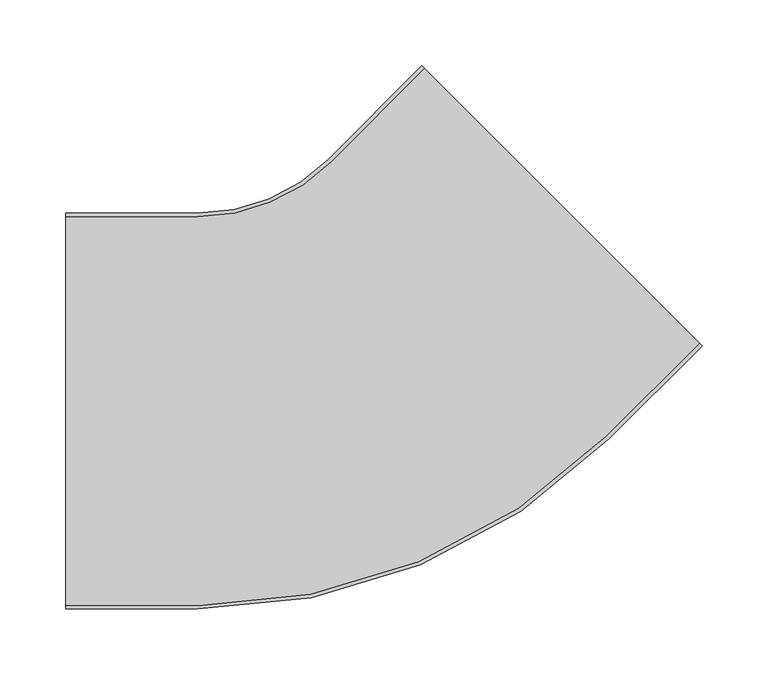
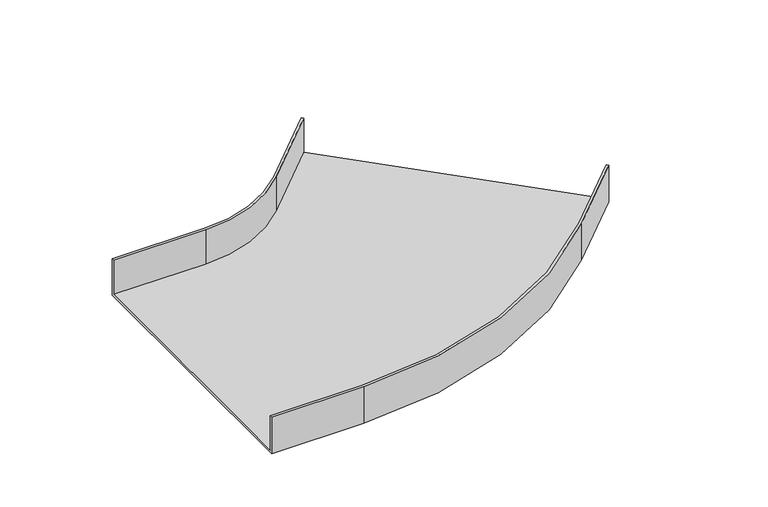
"""IFC4 building model written with IfcOpenShell, lengths in millimetres: cable carrier fitting geometry, BAKS_Horizontal bend radius : KKPJ/KKMPJ_H42."""

from ifc_helpers import new_model, si_unit, frame, origin, place, context, project, spatial, polyline, circle_curve, source, transform, mapped, element, save
from ifc_brep_helpers import plane_surface, cylinder_surface, revolved_surface, advanced_brep


def cable_carrier_fitting_55953e98(model_context):
    return source(origin(), model_context, "Body", "AdvancedBrep", [
        advanced_brep(
        [(-220.1219331, -150.0, -21.0), (-220.1219331, -150.0, 21.0), (-220.1219331, -147.46, 21.0), (-220.1219331, -147.46, -18.46), (-220.1219331, 147.46, -18.46), (-220.1219331, 147.46, 21.0), (-220.1219331, 150.0, 21.0), (-220.1219331, 150.0, -21.0), (261.7157288, 49.5836944, -21.0), (49.5836944, 261.7157288, -21.0), (49.5836944, 261.7157288, 21.0), (51.3797456, 259.9196775, 21.0), (51.3797456, 259.9196775, -18.46), (259.9196775, 51.3797456, -18.46), (259.9196775, 51.3797456, 21.0), (261.7157288, 49.5836944, 21.0), (-120.1219331, -150.0, -21.0), (-120.1219331, -150.0, 21.0), (191.0050506, -21.1269837, 21.0), (189.2089994, -19.3309325, 21.0), (-120.1219331, -147.46, 21.0), (-120.1219331, -147.46, -18.46), (189.2089994, -19.3309325, -18.46), (-19.3309325, 189.2089994, -18.46), (-120.1219331, 147.46, -18.46), (-120.1219331, 147.46, 21.0), (-19.3309325, 189.2089994, 21.0), (-21.1269837, 191.0050506, 21.0), (-120.1219331, 150.0, 21.0), (-120.1219331, 150.0, -21.0), (-21.1269837, 191.0050506, -21.0), (191.0050506, -21.1269837, -21.0)],
        [
            (0, 1),
            (1, 2),
            (2, 3),
            (3, 4),
            (4, 5),
            (5, 6),
            (6, 7),
            (7, 0),
            (8, 9),
            (9, 10),
            (10, 11),
            (11, 12),
            (12, 13),
            (13, 14),
            (14, 15),
            (15, 8),
            (0, 16),
            (16, 17),
            (17, 1),
            (17, 18, circle_curve(frame((-120.1219331, 290.0, 21.0), z_axis=(0.0, 0.0, 1.0), x_axis=(0.0, -1.0, 0.0)), 440.0)),
            (18, 15),
            (14, 19),
            (19, 20, circle_curve(frame((-120.1219331, 290.0, 21.0), z_axis=(0.0, 0.0, -1.0), x_axis=(0.0, -1.0, 0.0)), 437.46)),
            (20, 2),
            (20, 21),
            (21, 3),
            (21, 22, circle_curve(frame((-120.1219331, 290.0, -18.46), z_axis=(0.0, 0.0, 1.0), x_axis=(0.0, -1.0, 0.0)), 437.46)),
            (22, 13),
            (12, 23),
            (23, 24, circle_curve(frame((-120.1219331, 290.0, -18.46), z_axis=(0.0, 0.0, -1.0), x_axis=(0.0, -1.0, 0.0)), 142.54)),
            (24, 4),
            (24, 25),
            (25, 5),
            (25, 26, circle_curve(frame((-120.1219331, 290.0, 21.0), z_axis=(0.0, 0.0, 1.0), x_axis=(0.0, -1.0, 0.0)), 142.54)),
            (26, 11),
            (10, 27),
            (27, 28, circle_curve(frame((-120.1219331, 290.0, 21.0), z_axis=(0.0, 0.0, -1.0), x_axis=(0.0, -1.0, 0.0)), 140.0)),
            (28, 6),
            (28, 29),
            (29, 7),
            (29, 30, circle_curve(frame((-120.1219331, 290.0, -21.0), z_axis=(0.0, 0.0, 1.0), x_axis=(0.0, -1.0, 0.0)), 140.0)),
            (30, 9),
            (8, 31),
            (31, 16, circle_curve(frame((-120.1219331, 290.0, -21.0), z_axis=(0.0, 0.0, -1.0), x_axis=(0.0, -1.0, 0.0)), 440.0)),
            (31, 18),
            (19, 22),
            (23, 26),
            (27, 30),
        ],
        [
            plane_surface(frame((-220.1219331, 0.0, 0.0), z_axis=(-1.0, 0.0, 0.0), x_axis=(0.0, 0.0, 1.0))),
            plane_surface(frame((155.6497116, 155.6497116, 0.0), z_axis=(0.7071067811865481, 0.7071067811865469, 0.0), x_axis=(0.0, 0.0, 1.0))),
            plane_surface(frame((-220.1219331, -150.0, -21.0), z_axis=(0.0, -1.0, 0.0), x_axis=(1.0, 0.0, 0.0))),
            plane_surface(frame((-220.1219331, -150.0, 21.0), z_axis=(0.0, 0.0, 1.0), x_axis=(1.0, 0.0, 0.0))),
            plane_surface(frame((-220.1219331, -147.46, 21.0), z_axis=(0.0, 1.0, 0.0), x_axis=(1.0, 0.0, 0.0))),
            plane_surface(frame((-220.1219331, -147.46, -18.46), z_axis=(0.0, 0.0, 1.0), x_axis=(1.0, 0.0, 0.0))),
            plane_surface(frame((-220.1219331, 147.46, -18.46), z_axis=(0.0, -1.0, 0.0), x_axis=(1.0, 0.0, 0.0))),
            plane_surface(frame((-220.1219331, 147.46, 21.0), z_axis=(0.0, 0.0, 1.0), x_axis=(1.0, 0.0, 0.0))),
            plane_surface(frame((-220.1219331, 150.0, 21.0), z_axis=(0.0, 1.0, 0.0), x_axis=(1.0, 0.0, 0.0))),
            plane_surface(frame((-220.1219331, 150.0, -21.0), z_axis=(0.0, 0.0, -1.0), x_axis=(1.0, 0.0, 0.0))),
            cylinder_surface(frame((-120.1219331, 290.0, 0.0), z_axis=(0.0, 0.0, 1.0), x_axis=(0.0, -1.0, 0.0)), 440.0),
            revolved_surface(polyline([(-120.1219331, -147.45999999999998, 21.0), (-120.1219331, -147.45999999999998, -18.46)]), (-120.1219331, 290.0, 0.0), (0.0, 0.0, 1.0)),
            cylinder_surface(frame((-120.1219331, 290.0, 0.0), z_axis=(0.0, 0.0, 1.0), x_axis=(0.0, -1.0, 0.0)), 142.54),
            revolved_surface(polyline([(-120.1219331, 150.0, 21.0), (-120.1219331, 150.0, -21.0)]), (-120.1219331, 290.0, 0.0), (0.0, 0.0, 1.0)),
            plane_surface(frame((191.0050506, -21.1269837, -21.0), z_axis=(0.7071067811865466, -0.7071067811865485, 0.0), x_axis=(0.7071067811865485, 0.7071067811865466, 0.0))),
            plane_surface(frame((189.2089994, -19.3309325, 21.0), z_axis=(-0.7071067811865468, 0.7071067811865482, 0.0), x_axis=(0.7071067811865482, 0.7071067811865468, 0.0))),
            plane_surface(frame((-19.3309325, 189.2089994, -18.46), z_axis=(0.707106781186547, -0.707106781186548, 0.0), x_axis=(0.707106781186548, 0.707106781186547, 0.0))),
            plane_surface(frame((-21.1269837, 191.0050506, 21.0), z_axis=(-0.7071067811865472, 0.7071067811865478, 0.0), x_axis=(0.7071067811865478, 0.7071067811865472, 0.0))),
        ],
        [
            (0, [[1, 2, 3, 4, 5, 6, 7, 8]]),
            (1, [[9, 10, 11, 12, 13, 14, 15, 16]]),
            (2, [[-1, 17, 18, 19]]),
            (3, [[-2, -19, 20, 21, -15, 22, 23, 24]]),
            (4, [[-3, -24, 25, 26]]),
            (5, [[-4, -26, 27, 28, -13, 29, 30, 31]]),
            (6, [[-5, -31, 32, 33]]),
            (7, [[-6, -33, 34, 35, -11, 36, 37, 38]]),
            (8, [[-7, -38, 39, 40]]),
            (9, [[-8, -40, 41, 42, -9, 43, 44, -17]]),
            (10, [[-20, -18, -44, 45]]),
            (11, [[-27, -25, -23, 46]]),
            (12, [[-34, -32, -30, 47]]),
            (13, [[-41, -39, -37, 48]]),
            (14, [[-45, -43, -16, -21]]),
            (15, [[-46, -22, -14, -28]]),
            (16, [[-47, -29, -12, -35]]),
            (17, [[-48, -36, -10, -42]]),
        ],
    ),
    ])


if __name__ == "__main__":
    model = new_model("IFC4")
    model_context = context("Model", 3, world=origin())
    ifc_project = project(units=[si_unit("LENGTHUNIT", "METRE", prefix="MILLI")], contexts=[model_context])
    site = spatial("IfcSite", under=ifc_project)
    building = spatial("IfcBuilding", under=site)
    placement = place(None, origin())
    cable_carrier_fitting_shape = cable_carrier_fitting_55953e98(model_context)
    element("IfcCableCarrierFitting", 1, ObjectType="BAKS_Horizontal bend radius : KKPJ/KKMPJ_H42", at=placement, inside=building, context=model_context, shape_type="MappedRepresentation", body=[
        mapped(cable_carrier_fitting_shape, transform((0.0, 0.0, 0.0), x_axis=(1.0, 0.0, 0.0), y_axis=(0.0, 1.0, 0.0), z_axis=(0.0, 0.0, 1.0))),
    ])
    save(model, "model.ifc")
